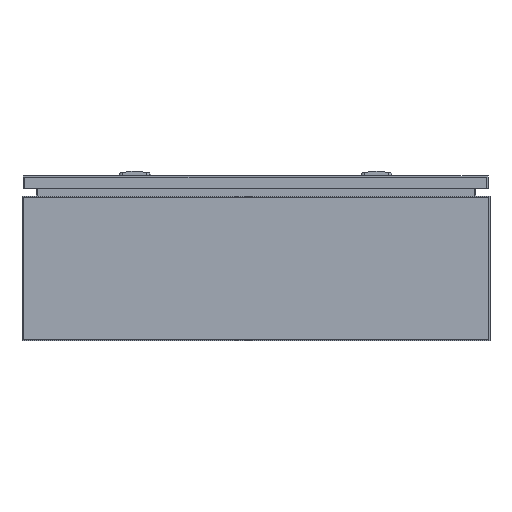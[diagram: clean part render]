
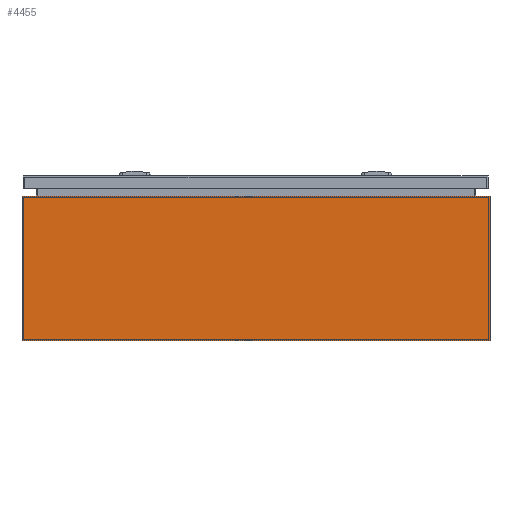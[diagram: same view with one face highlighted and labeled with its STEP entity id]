
A CAD part, left-side view. The second image highlights one B-rep face of the part: STEP entity #4455.
In plain terms, the highlighted planar face has unit normal (-1, 0, 0).
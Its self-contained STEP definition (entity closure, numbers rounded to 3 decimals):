
#390=ORIENTED_EDGE('',*,*,#1612,.T.);
#391=ORIENTED_EDGE('',*,*,#1598,.F.);
#392=ORIENTED_EDGE('',*,*,#1613,.F.);
#393=ORIENTED_EDGE('',*,*,#1614,.T.);
#1598=EDGE_CURVE('',#2208,#2209,#2643,.T.);
#1612=EDGE_CURVE('',#2218,#2209,#2657,.T.);
#1613=EDGE_CURVE('',#2219,#2208,#2658,.T.);
#1614=EDGE_CURVE('',#2219,#2218,#2659,.T.);
#2208=VERTEX_POINT('',#7089);
#2209=VERTEX_POINT('',#7091);
#2218=VERTEX_POINT('',#7119);
#2219=VERTEX_POINT('',#7121);
#2643=LINE('',#7090,#3068);
#2657=LINE('',#7118,#3082);
#2658=LINE('',#7120,#3083);
#2659=LINE('',#7122,#3084);
#3068=VECTOR('',#5720,1000.);
#3082=VECTOR('',#5744,1000.);
#3083=VECTOR('',#5745,1000.);
#3084=VECTOR('',#5746,1000.);
#3481=EDGE_LOOP('',(#390,#391,#392,#393));
#3872=FACE_BOUND('',#3481,.T.);
#4262=PLANE('',#5225);
#4455=ADVANCED_FACE('',(#3872),#4262,.F.);
#5225=AXIS2_PLACEMENT_3D('',#7117,#5742,#5743);
#5720=DIRECTION('',(0.,-1.,0.));
#5742=DIRECTION('',(1.,0.,0.));
#5743=DIRECTION('',(0.,0.,-1.));
#5744=DIRECTION('',(0.,0.,1.));
#5745=DIRECTION('',(0.,0.,1.));
#5746=DIRECTION('',(0.,-1.,0.));
#7089=CARTESIAN_POINT('',(-300.,600.,80.2));
#7090=CARTESIAN_POINT('',(-300.,600.,80.2));
#7091=CARTESIAN_POINT('',(-300.,0.,80.2));
#7117=CARTESIAN_POINT('',(-300.,600.,-105.));
#7118=CARTESIAN_POINT('',(-300.,0.,-105.));
#7119=CARTESIAN_POINT('',(-300.,0.,-105.));
#7120=CARTESIAN_POINT('',(-300.,600.,-105.));
#7121=CARTESIAN_POINT('',(-300.,600.,-105.));
#7122=CARTESIAN_POINT('',(-300.,600.,-105.));
